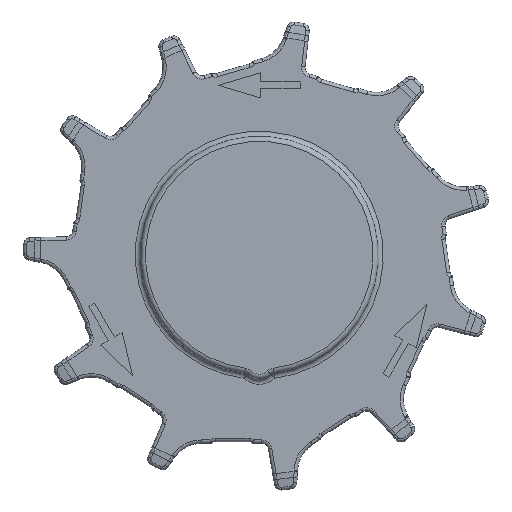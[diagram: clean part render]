
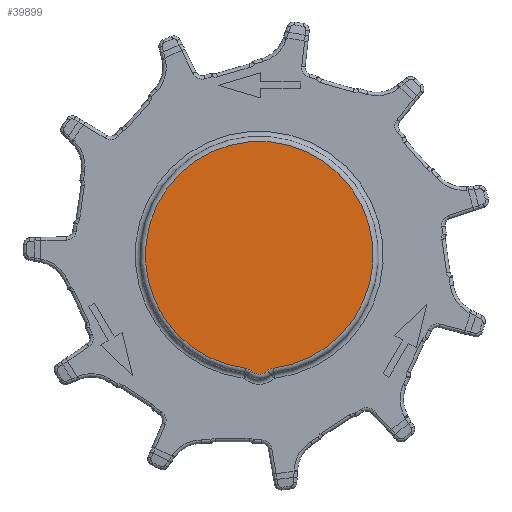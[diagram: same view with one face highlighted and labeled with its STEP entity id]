
A CAD part, front view. The second image highlights one B-rep face of the part: STEP entity #39899.
In plain terms, the highlighted planar face has unit normal (0, -1, 0).
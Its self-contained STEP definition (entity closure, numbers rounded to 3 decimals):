
#13116=CARTESIAN_POINT('',(0.,-19.5,0.));
#13117=DIRECTION('',(0.,-1.,0.));
#13118=DIRECTION('',(0.122,0.,-0.992));
#13119=AXIS2_PLACEMENT_3D('',#13116,#13117,#13118);
#13121=CARTESIAN_POINT('',(4.462,-19.5,-36.226));
#13122=DIRECTION('',(0.,-1.,0.));
#13123=DIRECTION('',(-0.122,0.,0.992));
#13124=AXIS2_PLACEMENT_3D('',#13121,#13122,#13123);
#13126=CARTESIAN_POINT('',(0.,-19.5,-31.5));
#13127=DIRECTION('',(0.,-1.,0.));
#13128=DIRECTION('',(-0.687,0.,-0.727));
#13129=AXIS2_PLACEMENT_3D('',#13126,#13127,#13128);
#13131=CARTESIAN_POINT('',(-4.462,-19.5,-36.226));
#13132=DIRECTION('',(0.,-1.,0.));
#13133=DIRECTION('',(0.687,0.,0.727));
#13134=AXIS2_PLACEMENT_3D('',#13131,#13132,#13133);
#18408=CARTESIAN_POINT('',(4.096,-19.5,-33.249));
#18409=CARTESIAN_POINT('',(-4.096,-19.5,-33.249));
#18410=VERTEX_POINT('',#18408);
#18411=VERTEX_POINT('',#18409);
#18424=CARTESIAN_POINT('',(-2.403,-19.5,-34.045));
#18425=CARTESIAN_POINT('',(2.403,-19.5,-34.045));
#18426=VERTEX_POINT('',#18424);
#18427=VERTEX_POINT('',#18425);
#39886=CARTESIAN_POINT('',(0.,-19.5,0.));
#39887=DIRECTION('',(0.,1.,0.));
#39888=DIRECTION('',(1.,0.,0.));
#39889=AXIS2_PLACEMENT_3D('',#39886,#39887,#39888);
#39890=PLANE('',#39889);
#39891=ORIENTED_EDGE('',*,*,#39864,.F.);
#39892=ORIENTED_EDGE('',*,*,#39876,.T.);
#39894=ORIENTED_EDGE('',*,*,#39893,.F.);
#39896=ORIENTED_EDGE('',*,*,#39895,.T.);
#39897=EDGE_LOOP('',(#39891,#39892,#39894,#39896));
#39898=FACE_OUTER_BOUND('',#39897,.F.);
#13120=CIRCLE('',#13119,33.5);
#13125=CIRCLE('',#13124,3.);
#13130=CIRCLE('',#13129,3.5);
#13135=CIRCLE('',#13134,3.);
#39864=EDGE_CURVE('',#18410,#18411,#13120,.T.);
#39876=EDGE_CURVE('',#18410,#18427,#13125,.T.);
#39893=EDGE_CURVE('',#18426,#18427,#13130,.T.);
#39895=EDGE_CURVE('',#18426,#18411,#13135,.T.);
#39899=ADVANCED_FACE('',(#39898),#39890,.F.);
